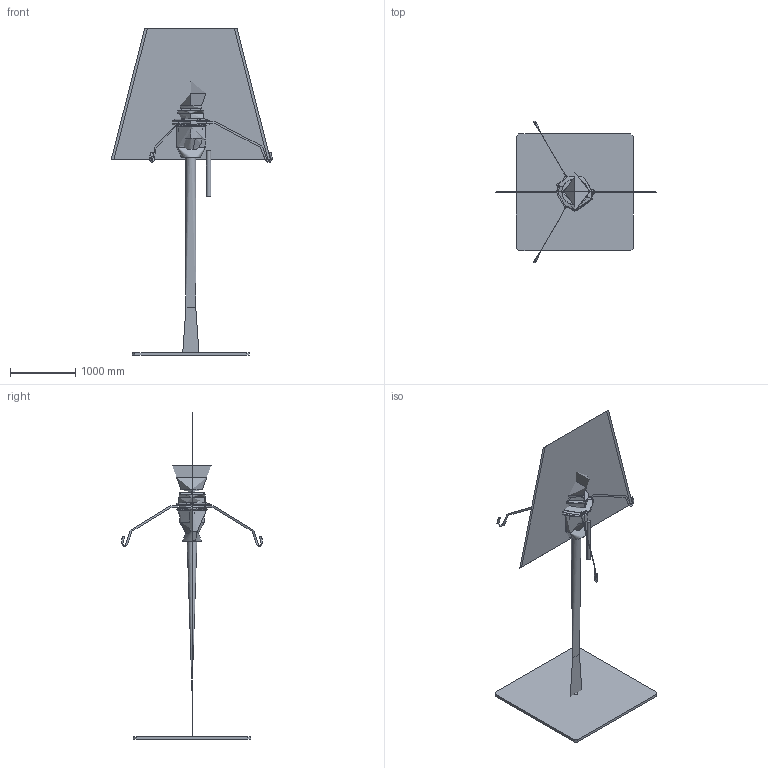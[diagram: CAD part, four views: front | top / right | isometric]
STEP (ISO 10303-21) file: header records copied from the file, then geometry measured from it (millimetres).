
FILE_DESCRIPTION(/* description */ (''),/* implementation_level */ '2;1');
FILE_NAME(/* name */ '2111',/* time_stamp */ '2022-01-20T16:07:35+01:00',/* author */ (''),/* organization */ (''),/* preprocessor_version */ 'ST-DEVELOPER v16.5',/* originating_system */ '',/* authorisation */ '');
FILE_SCHEMA (('CONFIG_CONTROL_DESIGN'));
Length unit declared in the file: centimetre
Products named in the file (1): Document
Bounding box: 2484.97 x 2182.33 x 5020 mm (x, y, z)
Volume: 868946950.7 mm3; surface area: 39934382.9 mm2
Topology: 10 solids, 10 shells, 251 faces, 649 edges, 420 vertices
Faces by surface type: cylinder 114, plane 78, bspline 59
Entity records: 9458 total; most frequent: CARTESIAN_POINT 5279, ORIENTED_EDGE 1272, EDGE_CURVE 636, VERTEX_POINT 414, B_SPLINE_CURVE_WITH_KNOTS 320, EDGE_LOOP 296, ADVANCED_FACE 251, FACE_OUTER_BOUND 251
